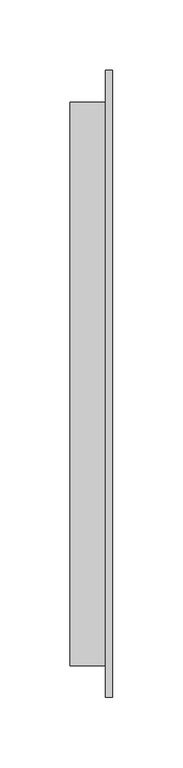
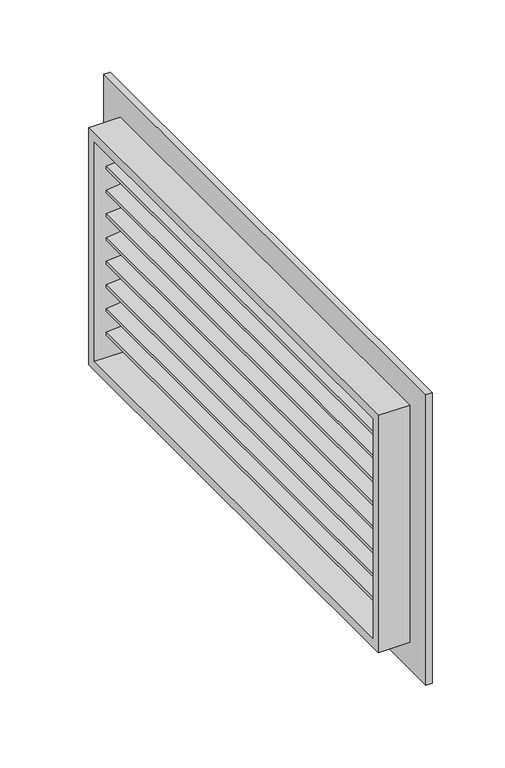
"""IFC4 building model written with IfcOpenShell, lengths in millimetres: air terminal geometry, BL_РешеткаПрямоугольная_Вытяжная_LVO : BL_РешеткаПрямоугольная_Вытяжная_LVO."""

import ifcopenshell
import ifcopenshell.guid

model = None  # the IFC model being written
_history = None  # IfcOwnerHistory: only IFC2X3 demands one
_inside = {}  # id of a spatial element -> (the spatial element, [elements in it])
_under = {}  # id of a project, library or spatial element -> (it, [spatial elements below it])
_declared = {}  # id of a project -> (the project, [libraries it declares])
_typed = {}  # id of a type object -> (the type object, [elements of that type])
_made_of = {}  # id of a material, layer set ... -> (it, [elements and type objects made of it])


def new_model(schema):
    """Start an empty IFC model of exactly this schema.

    Asked for "IFC4X3", IfcOpenShell would pick the latest addendum, in which some entities
    have other attributes; the version numbers below select the first issue.
    IFC2X3 requires an IfcOwnerHistory on every rooted entity: one is made here for all.
    """
    global model, _history
    if schema == "IFC4X3":
        model = ifcopenshell.file(schema_version=(4, 3, 0, 0))
    else:
        model = ifcopenshell.file(schema=schema)
    _inside.clear()
    _under.clear()
    _declared.clear()
    _typed.clear()
    _made_of.clear()
    _history = None
    if model.schema == "IFC2X3":
        org = make("IfcOrganization", Name="unknown")
        user = make(
            "IfcPersonAndOrganization",
            ThePerson=make("IfcPerson", FamilyName="unknown"),
            TheOrganization=org,
        )
        app = make(
            "IfcApplication",
            ApplicationDeveloper=org,
            Version="unknown",
            ApplicationFullName="unknown",
            ApplicationIdentifier="unknown",
        )
        _history = make(
            "IfcOwnerHistory",
            OwningUser=user,
            OwningApplication=app,
            ChangeAction="ADDED",
            CreationDate=0,
        )
    return model


def make(cls, **values):
    """One entity of the class cls with the attributes given. An attribute that is None is left unset."""
    return model.create_entity(
        cls, **{name: value for name, value in values.items() if value is not None}
    )


def rooted(cls, **values):
    """An entity with a GlobalId (a new one), such as an element, a storey or a relation."""
    return make(cls, GlobalId=ifcopenshell.guid.new(), OwnerHistory=_history, **values)


def si_unit(unit_type, name, prefix=None):
    """IfcSIUnit, for example si_unit("LENGTHUNIT", "METRE", prefix="MILLI")."""
    return make("IfcSIUnit", UnitType=unit_type, Prefix=prefix, Name=name)


def assignment(units):
    """IfcUnitAssignment: the units of a project."""
    return None if units is None else make("IfcUnitAssignment", Units=units)


def point(xyz):
    """IfcCartesianPoint."""
    return None if xyz is None else make("IfcCartesianPoint", Coordinates=xyz)


def direction(xyz):
    """IfcDirection."""
    return None if xyz is None else make("IfcDirection", DirectionRatios=xyz)


def frame(location, z_axis=None, x_axis=None):
    """IfcAxis2Placement3D, a coordinate frame: its origin and axes. An axis left out is left unset."""
    return make(
        "IfcAxis2Placement3D",
        Location=point(location),
        Axis=direction(z_axis),
        RefDirection=direction(x_axis),
    )


def frame_2d(location, x_axis=None):
    """IfcAxis2Placement2D, a coordinate frame in the plane: its origin and x axis."""
    return make(
        "IfcAxis2Placement2D", Location=point(location), RefDirection=direction(x_axis)
    )


def origin():
    """The frame at (0, 0, 0) with its axes left unset."""
    return frame((0.0, 0.0, 0.0))


def place(relative_to, where):
    """IfcLocalPlacement: puts the frame where relative to a parent placement (None: the world)."""
    return make(
        "IfcLocalPlacement", PlacementRelTo=relative_to, RelativePlacement=where
    )


def context(
    kind, dimensions, precision=None, world=None, true_north=None, identifier=None
):
    """IfcGeometricRepresentationContext, for example the 3D "Model" context."""
    return make(
        "IfcGeometricRepresentationContext",
        ContextIdentifier=identifier,
        ContextType=kind,
        CoordinateSpaceDimension=dimensions,
        Precision=precision,
        WorldCoordinateSystem=world,
        TrueNorth=true_north,
    )


def project(units=None, contexts=None):
    """IfcProject with its units and contexts."""
    return rooted(
        "IfcProject",
        Name="project",
        RepresentationContexts=contexts,
        UnitsInContext=assignment(units),
    )


def spatial(cls, under=None, at=None, **own):
    """A site, building, storey or space (cls), placed at a placement, below another one or the project."""
    s = rooted(cls, ObjectPlacement=at, **own)
    if under is not None:
        _under.setdefault(under.id(), (under, []))[1].append(s)
    return s


def polyline(points):
    """IfcPolyline through the points."""
    return make("IfcPolyline", Points=[point(p) for p in points])


def circle_curve(where, radius):
    """IfcCircle in the frame where."""
    return make("IfcCircle", Position=where, Radius=radius)


def trimmed(basis, trim1, trim2, sense, master):
    """IfcTrimmedCurve: the piece of a basis curve between two trims."""
    return make(
        "IfcTrimmedCurve",
        BasisCurve=basis,
        Trim1=trim1,
        Trim2=trim2,
        SenseAgreement=sense,
        MasterRepresentation=master,
    )


def segment(curve, same_sense, transition):
    """IfcCompositeCurveSegment."""
    return make(
        "IfcCompositeCurveSegment",
        Transition=transition,
        SameSense=same_sense,
        ParentCurve=curve,
    )


def composite_curve(segments, self_intersect=None):
    """IfcCompositeCurve: segments joined end to end."""
    return make("IfcCompositeCurve", Segments=segments, SelfIntersect=self_intersect)


def outline(outer, holes=None, kind="AREA"):
    """IfcArbitraryClosedProfileDef: a profile drawn as a closed curve; with holes, ...WithVoids."""
    if holes is None:
        return make("IfcArbitraryClosedProfileDef", ProfileType=kind, OuterCurve=outer)
    return make(
        "IfcArbitraryProfileDefWithVoids",
        ProfileType=kind,
        OuterCurve=outer,
        InnerCurves=holes,
    )


def extrude(swept, where, along, depth):
    """IfcExtrudedAreaSolid: the profile swept, set in the frame where, extruded along a direction by depth."""
    return make(
        "IfcExtrudedAreaSolid",
        SweptArea=swept,
        Position=where,
        ExtrudedDirection=direction(along),
        Depth=depth,
    )


def faces_of(points, faces, orient=None, outer=None):
    """IfcFace entities. A face is a list of loops; a loop is a list of indices into points, from 0.

    orient and outer hold one flag for each loop. By default every Orientation is true, the
    first loop of a face is its IfcFaceOuterBound and the others are IfcFaceBound.
    """
    made = []
    for i, loops in enumerate(faces):
        bounds = []
        for j, loop in enumerate(loops):
            is_outer = j == 0 if outer is None else outer[i][j]
            bounds.append(
                make(
                    "IfcFaceOuterBound" if is_outer else "IfcFaceBound",
                    Bound=make("IfcPolyLoop", Polygon=[points[k] for k in loop]),
                    Orientation=True if orient is None else orient[i][j],
                )
            )
        made.append(make("IfcFace", Bounds=bounds))
    return made


def faceted_brep(points, faces, orient=None, outer=None, voids=None):
    """IfcFacetedBrep: a solid bounded by flat faces; with voids (closed shells), ...WithVoids."""
    shared = [point(p) for p in points]
    hull = make("IfcClosedShell", CfsFaces=faces_of(shared, faces, orient, outer))
    if voids is None:
        return make("IfcFacetedBrep", Outer=hull)
    return make(
        "IfcFacetedBrepWithVoids",
        Outer=hull,
        Voids=[
            make(cls, CfsFaces=faces_of(shared, fs, o, b)) for cls, fs, o, b in voids
        ],
    )


def shape(context_of_items, identifier, shape_type, items):
    """IfcShapeRepresentation: the items that make up one representation, for example the "Body"."""
    return make(
        "IfcShapeRepresentation",
        ContextOfItems=context_of_items,
        RepresentationIdentifier=identifier,
        RepresentationType=shape_type,
        Items=items,
    )


def source(mapping_origin, context_of_items, identifier, shape_type, items):
    """IfcRepresentationMap: a shape defined once, which mapped items show again and again."""
    return make(
        "IfcRepresentationMap",
        MappingOrigin=mapping_origin,
        MappedRepresentation=shape(context_of_items, identifier, shape_type, items),
    )


def transform(
    local_origin,
    x_axis=None,
    y_axis=None,
    z_axis=None,
    scale=None,
    scale2=None,
    scale3=None,
    uniform=True,
):
    """IfcCartesianTransformationOperator3D, or its non-uniform kind. x_axis, y_axis, z_axis: its Axis1, 2, 3."""
    if uniform:
        return make(
            "IfcCartesianTransformationOperator3D",
            Axis1=direction(x_axis),
            Axis2=direction(y_axis),
            LocalOrigin=point(local_origin),
            Scale=scale,
            Axis3=direction(z_axis),
        )
    return make(
        "IfcCartesianTransformationOperator3DnonUniform",
        Axis1=direction(x_axis),
        Axis2=direction(y_axis),
        LocalOrigin=point(local_origin),
        Scale=scale,
        Axis3=direction(z_axis),
        Scale2=scale2,
        Scale3=scale3,
    )


def mapped(mapping_source, mapping_target):
    """IfcMappedItem: shows the shape of a source again, moved by a transform."""
    return make(
        "IfcMappedItem", MappingSource=mapping_source, MappingTarget=mapping_target
    )


def made_of(thing, what):
    """Note that an element or type object is made of a material, layer set ...; save() writes the relation."""
    if what is not None:
        _made_of.setdefault(what.id(), (what, []))[1].append(thing)
    return thing


def element(
    cls,
    number,
    at=None,
    inside=None,
    cuts=None,
    type_object=None,
    material=None,
    context=None,
    identifier="Body",
    shape_type=None,
    held_by="IfcProductDefinitionShape",
    body=None,
    shapes=None,
    **own,
):
    """One element of the class cls, such as IfcWall. Its Tag is "e" and its number.

    at: its placement. inside: the storey or other place that contains it. cuts: it is an
    opening in that element (IfcRelVoidsElement). A single representation is given by context,
    identifier, shape_type and body (its items); several are given by shapes. held_by: the class
    of the entity that holds the representations. save() writes the other relations.
    """
    e = rooted(cls, Tag="e%d" % number, ObjectPlacement=at, **own)
    if body is not None:
        shapes = [shape(context, identifier, shape_type, body)]
    if shapes is not None:
        e.Representation = make(held_by, Representations=shapes)
    if inside is not None:
        _inside.setdefault(inside.id(), (inside, []))[1].append(e)
    if cuts is not None:
        rooted(
            "IfcRelVoidsElement", RelatingBuildingElement=cuts, RelatedOpeningElement=e
        )
    if type_object is not None:
        _typed.setdefault(type_object.id(), (type_object, []))[1].append(e)
    return made_of(e, material)


def aggregate(whole, parts):
    """IfcRelAggregates: a whole, such as a stair, and the parts it consists of."""
    return rooted("IfcRelAggregates", RelatingObject=whole, RelatedObjects=parts)


def save(model, path):
    """Write the relations noted so far, then the file.

    IfcRelAggregates (storeys below a building ...), IfcRelContainedInSpatialStructure (elements
    in a storey), IfcRelDefinesByType, IfcRelAssociatesMaterial and IfcRelDeclares: one each for
    every whole, place, type object, material and project.
    """
    for whole, parts in _under.values():
        aggregate(whole, parts)
    for where, things in _inside.values():
        rooted(
            "IfcRelContainedInSpatialStructure",
            RelatedElements=things,
            RelatingStructure=where,
        )
    for kind, things in _typed.values():
        rooted("IfcRelDefinesByType", RelatedObjects=things, RelatingType=kind)
    for what, things in _made_of.values():
        rooted("IfcRelAssociatesMaterial", RelatedObjects=things, RelatingMaterial=what)
    for by, libraries in _declared.values():
        rooted("IfcRelDeclares", RelatingContext=by, RelatedDefinitions=libraries)
    model.write(path)


def air_terminal_bd3d6ee1(model_context):
    return source(origin(), model_context, "Body", "SolidModel", [
        extrude(outline(composite_curve([segment(polyline([(66.3333333, 9.5), (65.1666667, 22.391254)]), True, "CONTINUOUS"), segment(trimmed(circle_curve(frame_2d((67.5, 25.0)), 3.5), [point((65.1666667, 22.391254))], [point((69.8333333, 22.391254))], False, "CARTESIAN"), True, "CONTINUOUS"), segment(polyline([(69.8333333, 22.391254), (68.6666667, 9.5), (66.3333333, 9.5)]), True, "CONTINUOUS")], self_intersect=False)), frame((0.0, -192.5, 0.0), z_axis=(0.0, 1.0, 0.0), x_axis=(0.0, 0.0, 1.0)), (0.0, 0.0, 1.0), 385.0),
        extrude(outline(composite_curve([segment(polyline([(46.3333333, 9.5), (45.1666667, 22.391254)]), True, "CONTINUOUS"), segment(trimmed(circle_curve(frame_2d((47.5, 25.0)), 3.5), [point((45.1666667, 22.391254))], [point((49.8333333, 22.391254))], False, "CARTESIAN"), True, "CONTINUOUS"), segment(polyline([(49.8333333, 22.391254), (48.6666667, 9.5), (46.3333333, 9.5)]), True, "CONTINUOUS")], self_intersect=False)), frame((0.0, -192.5, 0.0), z_axis=(0.0, 1.0, 0.0), x_axis=(0.0, 0.0, 1.0)), (0.0, 0.0, 1.0), 385.0),
        extrude(outline(composite_curve([segment(polyline([(26.3333333, 9.5), (25.1666667, 22.391254)]), True, "CONTINUOUS"), segment(trimmed(circle_curve(frame_2d((27.5, 25.0)), 3.5), [point((25.1666667, 22.391254))], [point((29.8333333, 22.391254))], False, "CARTESIAN"), True, "CONTINUOUS"), segment(polyline([(29.8333333, 22.391254), (28.6666667, 9.5), (26.3333333, 9.5)]), True, "CONTINUOUS")], self_intersect=False)), frame((0.0, -192.5, 0.0), z_axis=(0.0, 1.0, 0.0), x_axis=(0.0, 0.0, 1.0)), (0.0, 0.0, 1.0), 385.0),
        extrude(outline(composite_curve([segment(polyline([(6.3333333, 9.5), (5.1666667, 22.391254)]), True, "CONTINUOUS"), segment(trimmed(circle_curve(frame_2d((7.5, 25.0)), 3.5), [point((5.1666667, 22.391254))], [point((9.8333333, 22.391254))], False, "CARTESIAN"), True, "CONTINUOUS"), segment(polyline([(9.8333333, 22.391254), (8.6666667, 9.5), (6.3333333, 9.5)]), True, "CONTINUOUS")], self_intersect=False)), frame((0.0, -192.5, 0.0), z_axis=(0.0, 1.0, 0.0), x_axis=(0.0, 0.0, 1.0)), (0.0, 0.0, 1.0), 385.0),
        extrude(outline(composite_curve([segment(polyline([(-13.6666667, 9.5), (-14.8333333, 22.391254)]), True, "CONTINUOUS"), segment(trimmed(circle_curve(frame_2d((-12.5, 25.0)), 3.5), [point((-14.8333333, 22.391254))], [point((-10.1666667, 22.391254))], False, "CARTESIAN"), True, "CONTINUOUS"), segment(polyline([(-10.1666667, 22.391254), (-11.3333333, 9.5), (-13.6666667, 9.5)]), True, "CONTINUOUS")], self_intersect=False)), frame((0.0, -192.5, 0.0), z_axis=(0.0, 1.0, 0.0), x_axis=(0.0, 0.0, 1.0)), (0.0, 0.0, 1.0), 385.0),
        extrude(outline(composite_curve([segment(polyline([(-33.6666667, 9.5), (-34.8333333, 22.391254)]), True, "CONTINUOUS"), segment(trimmed(circle_curve(frame_2d((-32.5, 25.0)), 3.5), [point((-34.8333333, 22.391254))], [point((-30.1666667, 22.391254))], False, "CARTESIAN"), True, "CONTINUOUS"), segment(polyline([(-30.1666667, 22.391254), (-31.3333333, 9.5), (-33.6666667, 9.5)]), True, "CONTINUOUS")], self_intersect=False)), frame((0.0, -192.5, 0.0), z_axis=(0.0, 1.0, 0.0), x_axis=(0.0, 0.0, 1.0)), (0.0, 0.0, 1.0), 385.0),
        extrude(outline(composite_curve([segment(polyline([(-53.6666667, 9.5), (-54.8333333, 22.391254)]), True, "CONTINUOUS"), segment(trimmed(circle_curve(frame_2d((-52.5, 25.0)), 3.5), [point((-54.8333333, 22.391254))], [point((-50.1666667, 22.391254))], False, "CARTESIAN"), True, "CONTINUOUS"), segment(polyline([(-50.1666667, 22.391254), (-51.3333333, 9.5), (-53.6666667, 9.5)]), True, "CONTINUOUS")], self_intersect=False)), frame((0.0, -192.5, 0.0), z_axis=(0.0, 1.0, 0.0), x_axis=(0.0, 0.0, 1.0)), (0.0, 0.0, 1.0), 385.0),
        extrude(outline(composite_curve([segment(polyline([(-73.6666667, 9.5), (-74.8333333, 22.391254)]), True, "CONTINUOUS"), segment(trimmed(circle_curve(frame_2d((-72.5, 25.0)), 3.5), [point((-74.8333333, 22.391254))], [point((-70.1666667, 22.391254))], False, "CARTESIAN"), True, "CONTINUOUS"), segment(polyline([(-70.1666667, 22.391254), (-71.3333333, 9.5), (-73.6666667, 9.5)]), True, "CONTINUOUS")], self_intersect=False)), frame((0.0, -192.5, 0.0), z_axis=(0.0, 1.0, 0.0), x_axis=(0.0, 0.0, 1.0)), (0.0, 0.0, 1.0), 385.0),
        faceted_brep([(30.0, -222.5, 122.5), (30.0, -222.5, -122.5), (30.0, 222.5, -122.5), (30.0, 222.5, 122.5), (30.0, -192.5, 92.5), (30.0, 192.5, 92.5), (30.0, 192.5, -92.5), (30.0, -192.5, -92.5), (0.0, -200.0, 100.0), (0.0, 200.0, 100.0), (0.0, 200.0, -100.0), (0.0, -200.0, -100.0), (0.0, -192.5, 92.5), (0.0, -192.5, -92.5), (0.0, 192.5, -92.5), (0.0, 192.5, 92.5), (25.0, -222.5, 122.5), (25.0, -222.5, -122.5), (25.0, 222.5, -122.5), (25.0, 222.5, 122.5), (25.0, -200.0, 100.0), (25.0, -200.0, -100.0), (25.0, 200.0, -100.0), (25.0, 200.0, 100.0)], [[[0, 1, 2, 3], [4, 5, 6, 7]], [[8, 9, 10, 11], [12, 13, 14, 15]], [[1, 0, 16, 17]], [[2, 1, 17, 18]], [[3, 2, 18, 19]], [[0, 3, 19, 16]], [[17, 16, 19, 18], [20, 21, 22, 23]], [[20, 23, 9, 8]], [[23, 22, 10, 9]], [[22, 21, 11, 10]], [[21, 20, 8, 11]], [[5, 4, 12, 15]], [[6, 5, 15, 14]], [[7, 6, 14, 13]], [[4, 7, 13, 12]]]),
    ])


if __name__ == "__main__":
    model = new_model("IFC4")
    model_context = context("Model", 3, world=origin())
    ifc_project = project(units=[si_unit("LENGTHUNIT", "METRE", prefix="MILLI")], contexts=[model_context])
    site = spatial("IfcSite", under=ifc_project)
    building = spatial("IfcBuilding", under=site)
    placement = place(None, origin())
    air_terminal_shape = air_terminal_bd3d6ee1(model_context)
    element("IfcAirTerminal", 1, ObjectType="BL_РешеткаПрямоугольная_Вытяжная_LVO : BL_РешеткаПрямоугольная_Вытяжная_LVO", at=placement, inside=building, context=model_context, shape_type="MappedRepresentation", body=[
        mapped(air_terminal_shape, transform((0.0, 0.0, 0.0), x_axis=(1.0, 0.0, 0.0), y_axis=(0.0, 1.0, 0.0), z_axis=(0.0, 0.0, 1.0))),
    ])
    save(model, "model.ifc")
